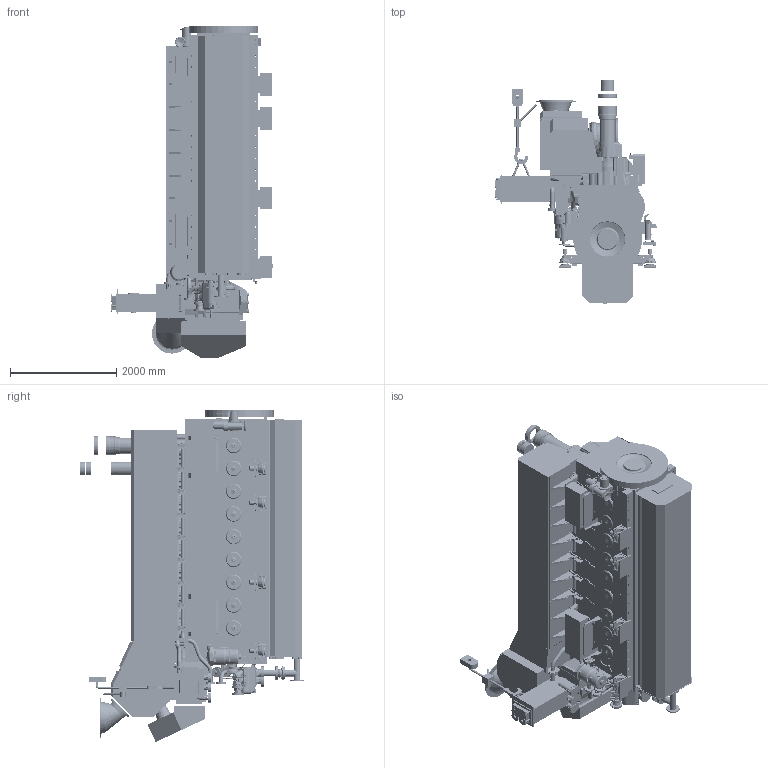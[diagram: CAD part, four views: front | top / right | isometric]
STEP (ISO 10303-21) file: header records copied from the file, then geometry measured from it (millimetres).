
FILE_DESCRIPTION((''),'2;1');
FILE_NAME('9M25E_CFWS_STP_ASM','2015-11-17T',('frickbd'),('Caterpillar Motoren GmbH & Co.KG'),'PRO/ENGINEER BY PARAMETRIC TECHNOLOGY CORPORATION, 2014200','PRO/ENGINEER BY PARAMETRIC TECHNOLOGY CORPORATION, 2014200','');
FILE_SCHEMA(('CONFIG_CONTROL_DESIGN'));
Products named in the file (6): 9M25E_CFWS_STP_REMOV_SPACE_P01; 9M25E_CFWS_STP_RESIL_MOUNT_P01; 9M25E_CFWS_STP_DRY_SUMP_P01; 9M25E_CFWS_STP_ENGINE_P01; 9M25E_CFWS_STP_WET_SUMP_P01; 9M25E_CFWS_STP_ASM
Assembly tree (5 placements, depth 2):
  9M25E_CFWS_STP_ASM
    9M25E_CFWS_STP_REMOV_SPACE_P01
    9M25E_CFWS_STP_RESIL_MOUNT_P01
    9M25E_CFWS_STP_DRY_SUMP_P01
    9M25E_CFWS_STP_ENGINE_P01
    9M25E_CFWS_STP_WET_SUMP_P01
Bounding box: 3067.97 x 4216 x 6263.95 mm (x, y, z)
Surface area: 150912871.1 mm2 (no closed solid volume)
Topology: 0 solids, 456 shells, 4991 faces, 19638 edges, 14687 vertices
Faces by surface type: plane 2661, cylinder 1676, cone 239, bspline 206, torus 173, sphere 31, extrusion 5
Entity records: 262631 total; most frequent: CARTESIAN_POINT 79541, DIRECTION 33993, ORIENTED_EDGE 29560, EDGE_CURVE 19613, VERTEX_POINT 14689, VECTOR 11879, LINE 11874, AXIS2_PLACEMENT_3D 11057
